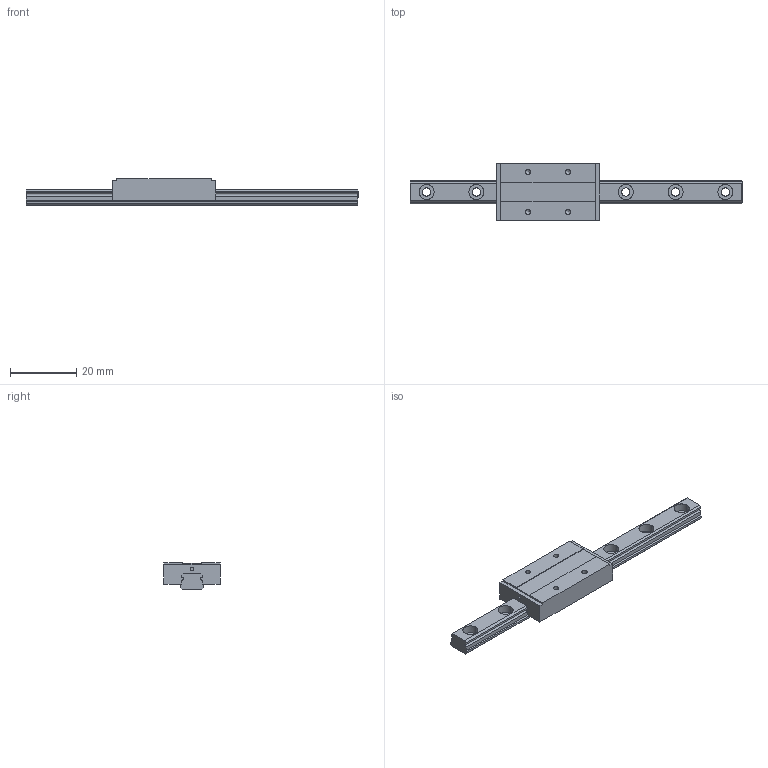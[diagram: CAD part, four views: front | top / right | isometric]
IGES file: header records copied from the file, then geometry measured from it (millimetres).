
Global section: file name: No Iges File Name specified; native system: AutoDesk Inventor R10; preprocessor: AutoDesk Inventor Iges Exporter R10; author: No Author specified; organization: No Organization specified; date: 20101222.162431; units: millimetre
Bounding box: 100 x 17 x 8 mm (x, y, z)
Surface area: 4604.6 mm2 (no closed solid volume)
Topology: 0 solids, 0 shells, 99 faces, 660 edges, 652 vertices
Faces by surface type: bspline 99
